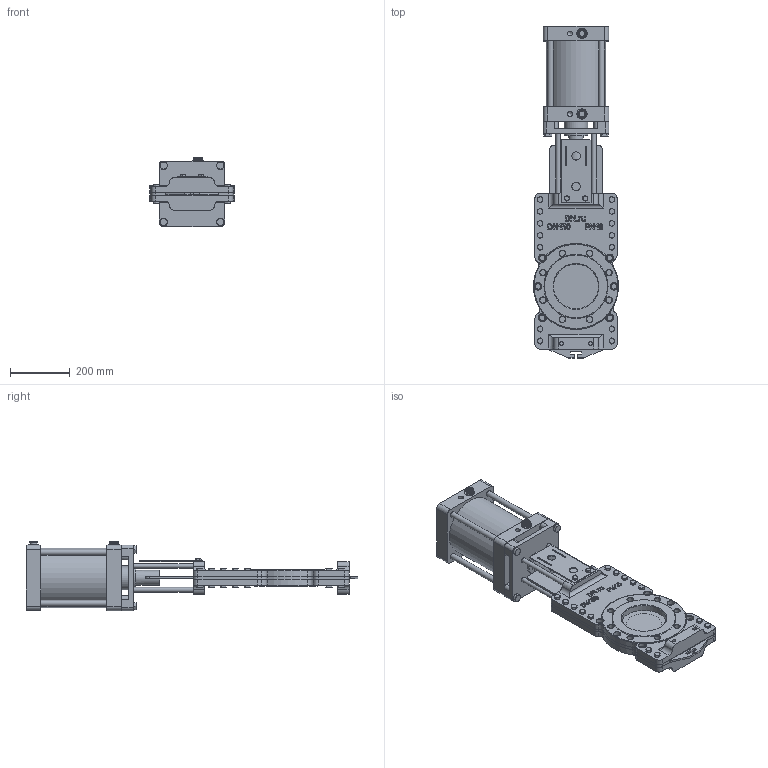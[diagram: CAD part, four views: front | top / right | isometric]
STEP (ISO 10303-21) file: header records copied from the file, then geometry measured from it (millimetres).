
FILE_DESCRIPTION(('STEP AP242'), '1');
FILE_NAME('GVKRT3431N-2W-Fb-2P Çàäâèæêà øèáåðíàÿ ñ âûäâèæíûì øòîêîì è ñêâîçíûì íîæîì DN.ru Äó150 Ðó10', '2026-05-27T17:58:45', ('DN.ru'), (''), 'C3D Converter', 'C3D Toolkit', '');
FILE_SCHEMA(('AP242_MANAGED_MODEL_BASED_3D_ENGINEERING_MIM_LF { 1 0 10303 442 1 1 4 }'));
Length unit declared in the file: millimetre
Products named in the file (1): GVKRT3431N-2W-Fb-2P
Bounding box: 284.96 x 1113 x 232.5 mm (x, y, z)
Volume: 20798332.1 mm3; surface area: 1723852.7 mm2
Topology: 1 solids, 31 shells, 1761 faces, 4106 edges, 2532 vertices
Faces by surface type: plane 939, cone 336, cylinder 308, extrusion 128, torus 35, bspline 15
Full cylindrical faces by diameter (mm): 10 x2, 12 x42, 14 x46, 16 x6, 16.339 x2, 18 x40, 19.05 x2, 20 x24, 22 x2, 24 x4, 25 x12, 27.951 x2, 30 x2, 35 x2, 50 x1, 80 x2, 115.43 x2, 150 x2, 200 x1
Entity records: 77295 total; most frequent: CARTESIAN_POINT 24394, DIRECTION 7703, ORIENTED_EDGE 7690, EDGE_CURVE 3845, AXIS2_PLACEMENT_3D 2981, VERTEX_POINT 2530, EDGE_LOOP 2317, FACE_BOUND 1896
